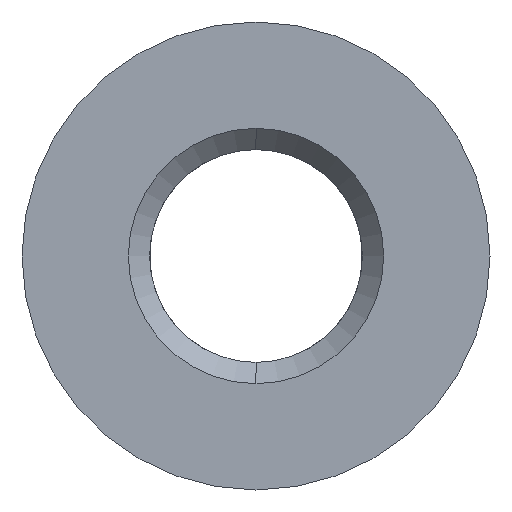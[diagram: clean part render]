
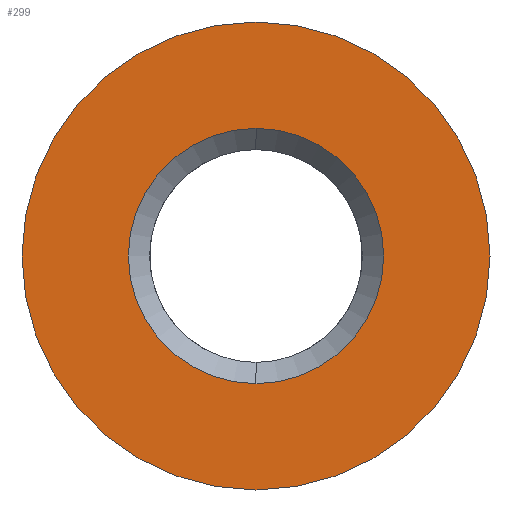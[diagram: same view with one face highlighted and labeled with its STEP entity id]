
A CAD part, left-side view. The second image highlights one B-rep face of the part: STEP entity #299.
In plain terms, the highlighted planar face has unit normal (-1, 0, 0).
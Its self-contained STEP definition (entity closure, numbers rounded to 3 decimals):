
#21 = ORIENTED_EDGE ( 'NONE', *, *, #263, .T. ) ;
#45 = EDGE_LOOP ( 'NONE', ( #495, #21 ) ) ;
#72 = EDGE_CURVE ( 'NONE', #429, #454, #230, .T. ) ;
#85 = CIRCLE ( 'NONE', #344, 1.5 ) ;
#112 = CIRCLE ( 'NONE', #234, 1.5 ) ;
#117 = CARTESIAN_POINT ( 'NONE',  ( -4.7, 0., 0. ) ) ;
#127 = CIRCLE ( 'NONE', #260, 2.75 ) ;
#141 = DIRECTION ( 'NONE',  ( 1., 0., 0. ) ) ;
#159 = AXIS2_PLACEMENT_3D ( 'NONE', #285, #819, #216 ) ;
#162 = VERTEX_POINT ( 'NONE', #188 ) ;
#166 = DIRECTION ( 'NONE',  ( 1., 0., 0. ) ) ;
#188 = CARTESIAN_POINT ( 'NONE',  ( -4.7, 0., -1.5 ) ) ;
#216 = DIRECTION ( 'NONE',  ( 0., 0., 1. ) ) ;
#229 = FACE_OUTER_BOUND ( 'NONE', #45, .T. ) ;
#230 = CIRCLE ( 'NONE', #159, 2.75 ) ;
#234 = AXIS2_PLACEMENT_3D ( 'NONE', #117, #141, #464 ) ;
#239 = DIRECTION ( 'NONE',  ( 0., 0., 1. ) ) ;
#260 = AXIS2_PLACEMENT_3D ( 'NONE', #288, #283, #306 ) ;
#263 = EDGE_CURVE ( 'NONE', #454, #429, #127, .T. ) ;
#270 = CARTESIAN_POINT ( 'NONE',  ( -4.7, 0., 2.75 ) ) ;
#283 = DIRECTION ( 'NONE',  ( -1., 0., 0. ) ) ;
#285 = CARTESIAN_POINT ( 'NONE',  ( -4.7, 0., 0. ) ) ;
#288 = CARTESIAN_POINT ( 'NONE',  ( -4.7, 0., 0. ) ) ;
#299 = ADVANCED_FACE ( 'NONE', ( #831, #229 ), #362, .T. ) ;
#306 = DIRECTION ( 'NONE',  ( 0., 0., 1. ) ) ;
#316 = EDGE_CURVE ( 'NONE', #162, #732, #85, .T. ) ;
#344 = AXIS2_PLACEMENT_3D ( 'NONE', #697, #166, #239 ) ;
#362 = PLANE ( 'NONE',  #836 ) ;
#382 = CARTESIAN_POINT ( 'NONE',  ( -4.7, 0., 1.5 ) ) ;
#410 = EDGE_LOOP ( 'NONE', ( #655, #662 ) ) ;
#415 = EDGE_CURVE ( 'NONE', #732, #162, #112, .T. ) ;
#429 = VERTEX_POINT ( 'NONE', #270 ) ;
#454 = VERTEX_POINT ( 'NONE', #804 ) ;
#464 = DIRECTION ( 'NONE',  ( 0., 0., 1. ) ) ;
#491 = DIRECTION ( 'NONE',  ( 0., 0., 1. ) ) ;
#495 = ORIENTED_EDGE ( 'NONE', *, *, #72, .T. ) ;
#636 = DIRECTION ( 'NONE',  ( -1., 0., 0. ) ) ;
#655 = ORIENTED_EDGE ( 'NONE', *, *, #415, .T. ) ;
#662 = ORIENTED_EDGE ( 'NONE', *, *, #316, .T. ) ;
#697 = CARTESIAN_POINT ( 'NONE',  ( -4.7, 0., 0. ) ) ;
#706 = CARTESIAN_POINT ( 'NONE',  ( -4.7, 1.25, 0. ) ) ;
#732 = VERTEX_POINT ( 'NONE', #382 ) ;
#804 = CARTESIAN_POINT ( 'NONE',  ( -4.7, 0., -2.75 ) ) ;
#819 = DIRECTION ( 'NONE',  ( -1., 0., 0. ) ) ;
#831 = FACE_BOUND ( 'NONE', #410, .T. ) ;
#836 = AXIS2_PLACEMENT_3D ( 'NONE', #706, #636, #491 ) ;
